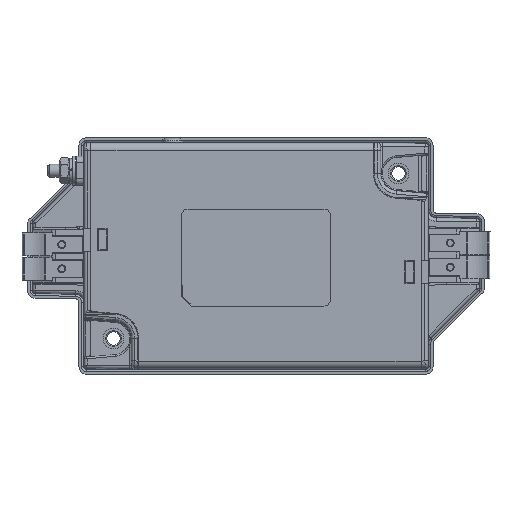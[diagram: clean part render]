
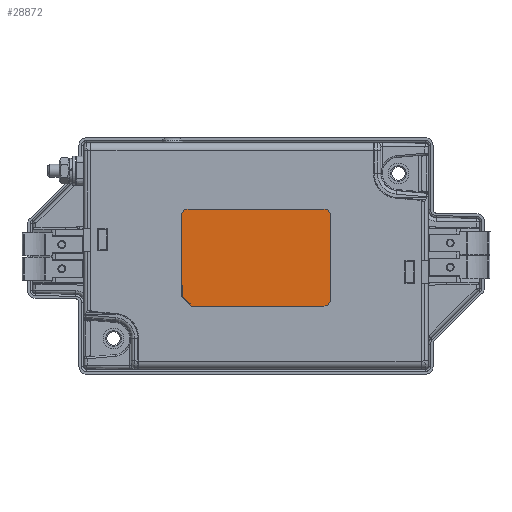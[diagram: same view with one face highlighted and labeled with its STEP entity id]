
A CAD part, top view. The second image highlights one B-rep face of the part: STEP entity #28872.
In plain terms, the highlighted planar face has unit normal (0, 0, 1).
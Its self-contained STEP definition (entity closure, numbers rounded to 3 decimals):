
#1742=PLANE('',#31400);
#3697=FACE_OUTER_BOUND('',#5312,.T.);
#5312=EDGE_LOOP('',(#25548,#25549,#25550,#25551,#25552,#25553,#25554,#25555));
#7955=LINE('',#51849,#10614);
#7959=LINE('',#51861,#10618);
#7963=LINE('',#51872,#10622);
#7964=LINE('',#51875,#10623);
#7967=LINE('',#51880,#10626);
#10614=VECTOR('',#38907,10.);
#10618=VECTOR('',#38919,10.);
#10622=VECTOR('',#38931,10.);
#10623=VECTOR('',#38934,10.);
#10626=VECTOR('',#38939,10.);
#11370=CIRCLE('',#31387,2.);
#11372=CIRCLE('',#31391,2.);
#11374=CIRCLE('',#31395,2.);
#13877=VERTEX_POINT('',#51836);
#13878=VERTEX_POINT('',#51837);
#13882=VERTEX_POINT('',#51847);
#13883=VERTEX_POINT('',#51851);
#13886=VERTEX_POINT('',#51859);
#13887=VERTEX_POINT('',#51863);
#13889=VERTEX_POINT('',#51870);
#13890=VERTEX_POINT('',#51874);
#17801=EDGE_CURVE('',#13877,#13878,#11370,.T.);
#17807=EDGE_CURVE('',#13882,#13877,#7955,.T.);
#17808=EDGE_CURVE('',#13883,#13882,#11372,.T.);
#17813=EDGE_CURVE('',#13886,#13883,#7959,.T.);
#17814=EDGE_CURVE('',#13887,#13886,#11374,.T.);
#17819=EDGE_CURVE('',#13889,#13887,#7963,.T.);
#17820=EDGE_CURVE('',#13890,#13889,#7964,.T.);
#17823=EDGE_CURVE('',#13878,#13890,#7967,.T.);
#25548=ORIENTED_EDGE('',*,*,#17801,.F.);
#25549=ORIENTED_EDGE('',*,*,#17807,.F.);
#25550=ORIENTED_EDGE('',*,*,#17808,.F.);
#25551=ORIENTED_EDGE('',*,*,#17813,.F.);
#25552=ORIENTED_EDGE('',*,*,#17814,.F.);
#25553=ORIENTED_EDGE('',*,*,#17819,.F.);
#25554=ORIENTED_EDGE('',*,*,#17820,.F.);
#25555=ORIENTED_EDGE('',*,*,#17823,.F.);
#28872=ADVANCED_FACE('',(#3697),#1742,.T.);
#31387=AXIS2_PLACEMENT_3D('',#51838,#38897,#38898);
#31391=AXIS2_PLACEMENT_3D('',#51852,#38910,#38911);
#31395=AXIS2_PLACEMENT_3D('',#51864,#38922,#38923);
#31400=AXIS2_PLACEMENT_3D('',#51882,#38941,#38942);
#38897=DIRECTION('center_axis',(0.,0.,
-1.));
#38898=DIRECTION('ref_axis',(0.707,-0.707,0.));
#38907=DIRECTION('',(0.,-1.,0.));
#38910=DIRECTION('center_axis',(0.,0.,
-1.));
#38911=DIRECTION('ref_axis',(0.707,0.707,0.));
#38919=DIRECTION('',(1.,0.,0.));
#38922=DIRECTION('center_axis',(0.,0.,
-1.));
#38923=DIRECTION('ref_axis',(-0.707,0.707,0.));
#38931=DIRECTION('',(0.,1.,0.));
#38934=DIRECTION('',(-0.707,0.707,0.));
#38939=DIRECTION('',(-1.,0.,0.));
#38941=DIRECTION('center_axis',(0.,0.,
1.));
#38942=DIRECTION('ref_axis',(0.,-1.,0.));
#51836=CARTESIAN_POINT('',(23.,-13.525,35.1));
#51837=CARTESIAN_POINT('',(21.,-15.525,35.1));
#51838=CARTESIAN_POINT('Origin',(21.,-13.525,35.1));
#51847=CARTESIAN_POINT('',(23.,12.475,35.1));
#51849=CARTESIAN_POINT('',(23.,-15.525,35.1));
#51851=CARTESIAN_POINT('',(21.,14.475,35.1));
#51852=CARTESIAN_POINT('Origin',(21.,12.475,35.1));
#51859=CARTESIAN_POINT('',(-21.,14.475,35.1));
#51861=CARTESIAN_POINT('',(23.,14.475,35.1));
#51863=CARTESIAN_POINT('',(-23.,12.475,35.1));
#51864=CARTESIAN_POINT('Origin',(-21.,12.475,35.1));
#51870=CARTESIAN_POINT('',(-23.,-12.525,35.1));
#51872=CARTESIAN_POINT('',(-23.,14.475,35.1));
#51874=CARTESIAN_POINT('',(-20.,-15.525,35.1));
#51875=CARTESIAN_POINT('',(-19.5,-16.025,35.1));
#51880=CARTESIAN_POINT('',(-23.,-15.525,35.1));
#51882=CARTESIAN_POINT('Origin',(0.,-0.525,
35.1));
